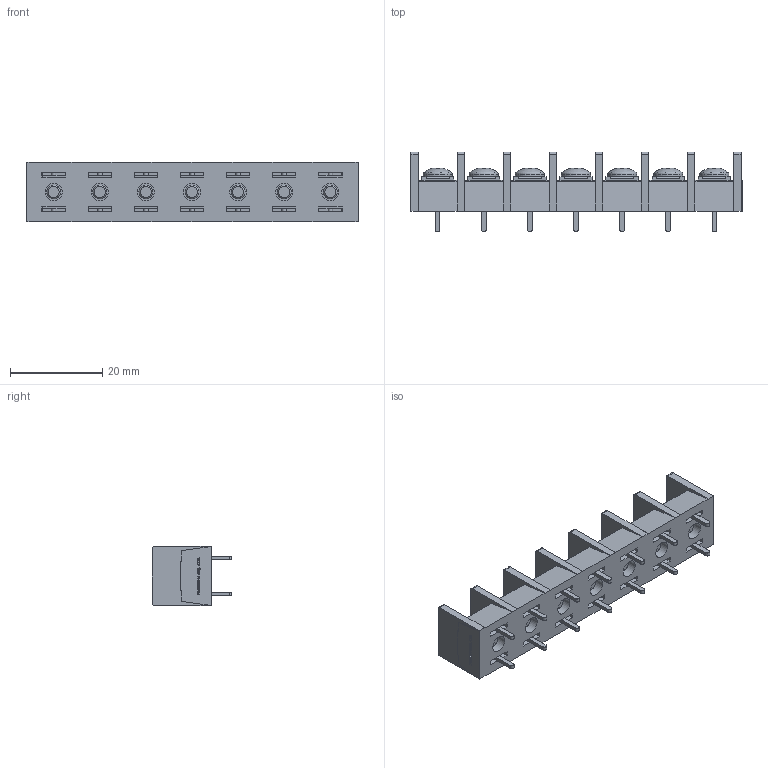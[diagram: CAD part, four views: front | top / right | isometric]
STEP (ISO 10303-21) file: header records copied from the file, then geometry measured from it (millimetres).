
FILE_DESCRIPTION(/* description */ ('Alibre Inc.'),/* implementation_level */ '2;1');
FILE_NAME(/* name */ 'export0',/* time_stamp */ '2015-10-23T18:03:18+09:00',/* author */ (''),/* organization */ (''),/* preprocessor_version */ 'ST-DEVELOPER v14',/* originating_system */ 'Alibre',/* authorisation */ '');
FILE_SCHEMA (('CONFIG_CONTROL_DESIGN'));
Length unit declared in the file: centimetre
Products named in the file (1): ID_1
Bounding box: 72 x 17.3 x 12.8 mm (x, y, z)
Volume: 6715.8 mm3; surface area: 7985.1 mm2
Topology: 1 solids, 120 shells, 2385 faces, 6129 edges, 4052 vertices
Faces by surface type: plane 1782, bspline 468, cylinder 79, cone 35, torus 14, sphere 7
Full cylindrical faces by diameter (mm): 3 x14, 3.7 x7, 4.6 x7, 6.3 x7
Entity records: 68967 total; most frequent: CARTESIAN_POINT 16681, ORIENTED_EDGE 12132, DIRECTION 7202, EDGE_CURVE 6066, VECTOR 4669, LINE 4669, VERTEX_POINT 4045, EDGE_LOOP 2607
